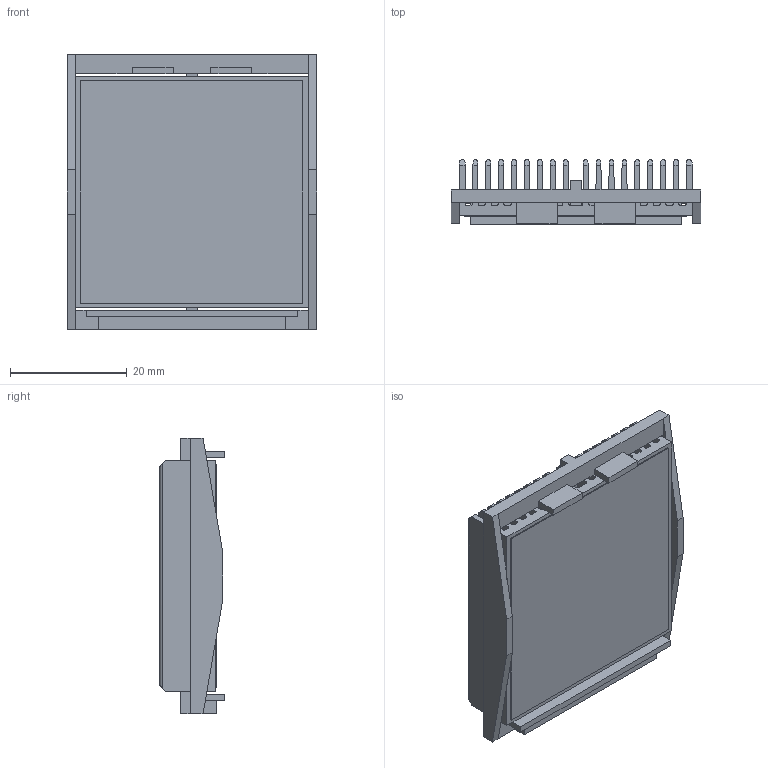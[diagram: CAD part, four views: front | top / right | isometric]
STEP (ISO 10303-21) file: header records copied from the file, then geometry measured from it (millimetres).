
FILE_DESCRIPTION (( 'STEP AP214' ), '1' );
FILE_NAME ('INL40001-10-1.7BU.STEP', '2023-03-01T17:06:51', ( '' ), ( '' ), 'SwSTEP 2.0', 'SolidWorks 2020', '' );
FILE_SCHEMA (( 'AUTOMOTIVE_DESIGN' ));
Length unit declared in the file: millimetre
Products named in the file (1): INL40001-10-1.7BU
Bounding box: 42.7 x 11 x 47.1 mm (x, y, z)
Volume: 9451.2 mm3; surface area: 19813.8 mm2
Topology: 3 solids, 3 shells, 198 faces, 578 edges, 384 vertices
Faces by surface type: plane 146, cylinder 52
Entity records: 8712 total; most frequent: CARTESIAN_POINT 1269, ORIENTED_EDGE 1156, DIRECTION 1008, EDGE_CURVE 578, LINE 474, VECTOR 474, VERTEX_POINT 384, AXIS2_PLACEMENT_3D 267
